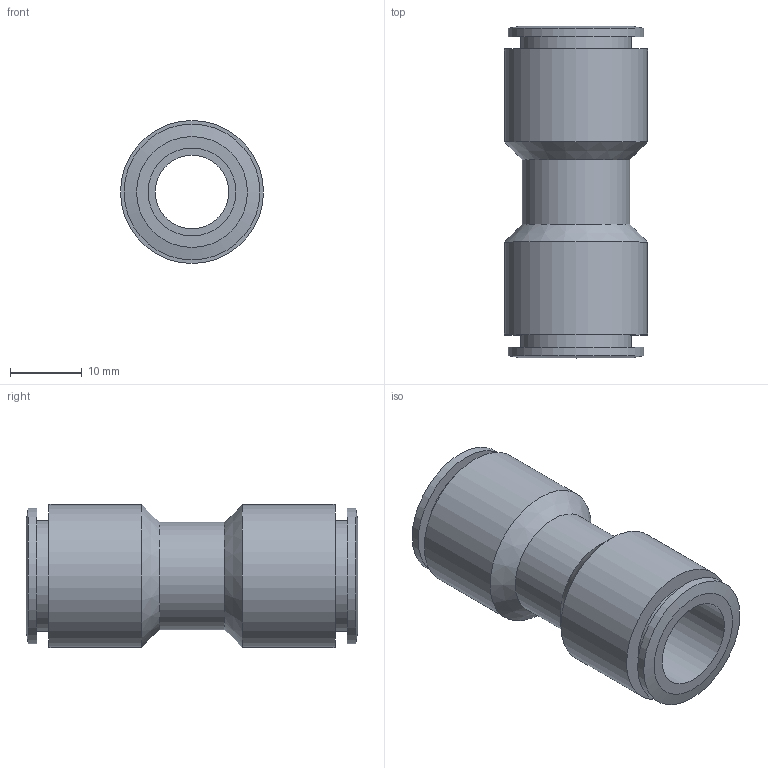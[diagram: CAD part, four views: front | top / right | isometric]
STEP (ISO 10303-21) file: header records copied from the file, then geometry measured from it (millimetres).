
FILE_DESCRIPTION((''),'2;1');
FILE_NAME('C:\Documents and Settings\rivolro1\Documenti\copia di Raccordi\PLASTICA\T03XX00\T031200.stp','2007-10-30T15:29:15',('Rivolro1'),(''),'Autodesk Inventor 2008','Autodesk Inventor 2008','');
FILE_SCHEMA(('AUTOMOTIVE_DESIGN { 1 0 10303 214 1 1 1 1 }'));
Length unit declared in the file: millimetre
Products named in the file (1): T031200
Bounding box: 20 x 46.4 x 20 mm (x, y, z)
Volume: 7102.4 mm3; surface area: 5358.1 mm2
Topology: 1 solids, 1 shells, 22 faces, 37 edges, 23 vertices
Faces by surface type: cylinder 8, plane 6, bspline 4, cone 4
Full cylindrical faces by diameter (mm): 10.3 x1, 15 x1, 15.5 x2, 19 x2, 20 x2
Entity records: 523 total; most frequent: CARTESIAN_POINT 107, DIRECTION 82, ORIENTED_EDGE 44, EDGE_LOOP 44, AXIS2_PLACEMENT_3D 41, VERTEX_POINT 22, CIRCLE 22, EDGE_CURVE 22
